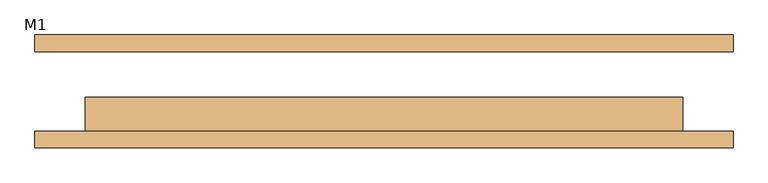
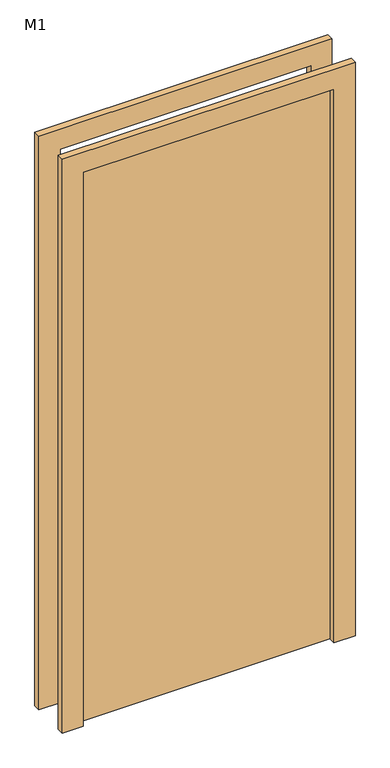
"""IFC4 building model written with IfcOpenShell, lengths in millimetres: door geometry, 单扇 - 与墙齐 : M1."""

from ifc_helpers import new_model, si_unit, frame, origin, origin_with_axes, place, context, project, spatial, polyline, outline, extrude, source, transform, mapped, element, save


def m1_203bd3fe(model_context):
    return source(origin(), model_context, "Body", "SweptSolid", [
        extrude(outline(polyline([(2176.0, -526.0), (0.0, -526.0), (0.0, -450.0), (2100.0, -450.0), (2100.0, 450.0), (0.0, 450.0), (0.0, 526.0), (2176.0, 526.0), (2176.0, -526.0)])), frame((0.0, -85.0, 0.0), z_axis=(0.0, 1.0, 0.0), x_axis=(0.0, 0.0, 1.0)), (0.0, 0.0, 1.0), 25.0),
        extrude(outline(polyline([(2176.0, 526.0), (2176.0, -526.0), (0.0, -526.0), (0.0, -450.0), (2100.0, -450.0), (2100.0, 450.0), (0.0, 450.0), (0.0, 526.0), (2176.0, 526.0)])), frame((0.0, 60.0, 0.0), z_axis=(0.0, 1.0, 0.0), x_axis=(0.0, 0.0, 1.0)), (0.0, 0.0, 1.0), 25.0),
        extrude(outline(polyline([(450.0, -9.0), (450.0, -60.0), (-450.0, -60.0), (-450.0, -9.0), (450.0, -9.0)])), origin_with_axes(), (0.0, 0.0, 1.0), 2100.0),
    ])


if __name__ == "__main__":
    model = new_model("IFC4")
    model_context = context("Model", 3, world=origin())
    ifc_project = project(units=[si_unit("LENGTHUNIT", "METRE", prefix="MILLI")], contexts=[model_context])
    site = spatial("IfcSite", under=ifc_project)
    building = spatial("IfcBuilding", under=site)
    placement = place(None, origin())
    m1_shape = m1_203bd3fe(model_context)
    element("IfcDoor", 1, ObjectType="单扇 - 与墙齐 : M1", at=placement, inside=building, context=model_context, shape_type="MappedRepresentation", body=[
        mapped(m1_shape, transform((0.0, 0.0, 0.0), x_axis=(1.0, 0.0, 0.0), y_axis=(0.0, 1.0, 0.0), z_axis=(0.0, 0.0, 1.0))),
    ])
    save(model, "model.ifc")
